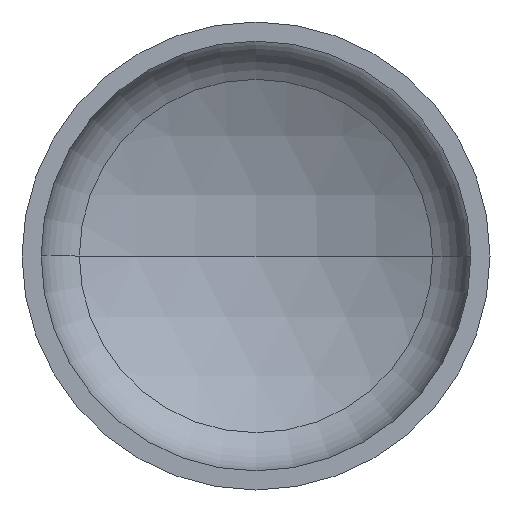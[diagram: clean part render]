
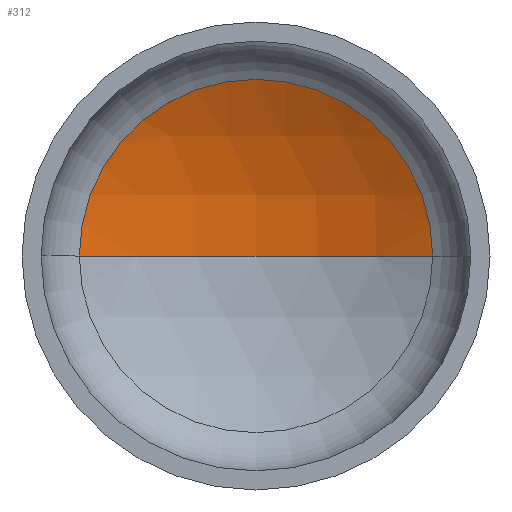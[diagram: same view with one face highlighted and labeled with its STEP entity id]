
A CAD part, front view. The second image highlights one B-rep face of the part: STEP entity #312.
In plain terms, the highlighted spherical face has radius 1760 mm.
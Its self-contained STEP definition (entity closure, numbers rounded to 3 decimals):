
#2 = VERTEX_POINT ( 'NONE', #263 ) ;
#6 = EDGE_LOOP ( 'NONE', ( #104, #116, #68 ) ) ;
#23 = AXIS2_PLACEMENT_3D ( 'NONE', #139, #132, #384 ) ;
#38 = VERTEX_POINT ( 'NONE', #303 ) ;
#57 = AXIS2_PLACEMENT_3D ( 'NONE', #270, #267, #266 ) ;
#61 = AXIS2_PLACEMENT_3D ( 'NONE', #220, #228, #235 ) ;
#66 = AXIS2_PLACEMENT_3D ( 'NONE', #336, #196, #268 ) ;
#68 = ORIENTED_EDGE ( 'NONE', *, *, #156, .T. ) ;
#83 = VERTEX_POINT ( 'NONE', #258 ) ;
#104 = ORIENTED_EDGE ( 'NONE', *, *, #173, .F. ) ;
#116 = ORIENTED_EDGE ( 'NONE', *, *, #162, .T. ) ;
#132 = DIRECTION ( 'NONE',  ( 0., 0., -1. ) ) ;
#139 = CARTESIAN_POINT ( 'NONE',  ( 0., -1151.998, 0. ) ) ;
#156 = EDGE_CURVE ( 'NONE', #2, #38, #256, .T. ) ;
#162 = EDGE_CURVE ( 'NONE', #83, #2, #379, .T. ) ;
#173 = EDGE_CURVE ( 'NONE', #83, #38, #194, .T. ) ;
#194 = CIRCLE ( 'NONE', #57, 1760. ) ;
#196 = DIRECTION ( 'NONE',  ( 0., -1., 0. ) ) ;
#220 = CARTESIAN_POINT ( 'NONE',  ( 0., -1151.998, 0. ) ) ;
#228 = DIRECTION ( 'NONE',  ( 0., 0., -1. ) ) ;
#235 = DIRECTION ( 'NONE',  ( -1., 0., 0. ) ) ;
#256 = CIRCLE ( 'NONE', #66, 830.423 ) ;
#258 = CARTESIAN_POINT ( 'NONE',  ( 0., 608.002, 0. ) ) ;
#263 = CARTESIAN_POINT ( 'NONE',  ( 830.423, 399.774, 0. ) ) ;
#266 = DIRECTION ( 'NONE',  ( 1., 0., 0. ) ) ;
#267 = DIRECTION ( 'NONE',  ( 0., 0., 1. ) ) ;
#268 = DIRECTION ( 'NONE',  ( 1., 0., 0. ) ) ;
#270 = CARTESIAN_POINT ( 'NONE',  ( 0., -1151.998, 0. ) ) ;
#288 = SPHERICAL_SURFACE ( 'NONE', #23, 1760. ) ;
#303 = CARTESIAN_POINT ( 'NONE',  ( -830.423, 399.774, 0. ) ) ;
#312 = ADVANCED_FACE ( 'NONE', ( #402 ), #288, .F. ) ;
#336 = CARTESIAN_POINT ( 'NONE',  ( 0., 399.774, 0. ) ) ;
#379 = CIRCLE ( 'NONE', #61, 1760. ) ;
#384 = DIRECTION ( 'NONE',  ( -1., 0., 0. ) ) ;
#402 = FACE_OUTER_BOUND ( 'NONE', #6, .T. ) ;
